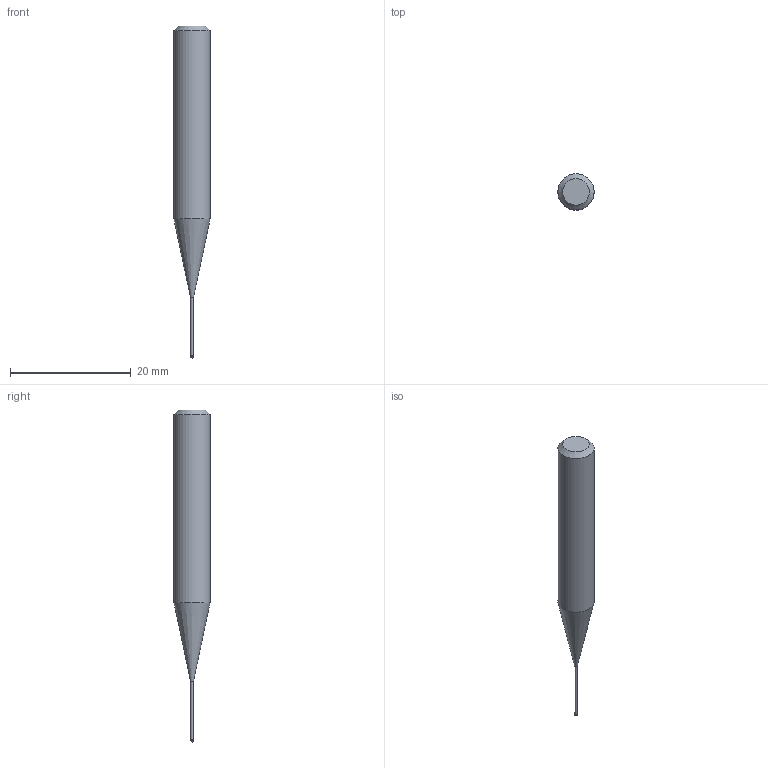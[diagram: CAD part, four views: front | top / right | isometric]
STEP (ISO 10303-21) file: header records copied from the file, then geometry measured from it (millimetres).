
FILE_DESCRIPTION((''),'2;1');
FILE_NAME('C:\Users\nsx150\AppData\Local\Temp\Mastercam 2021\3SYKECWX22\TEMP.step','2021-04-22T10:00:36',(''),(''),'STEP Write','Mastercam 2021 ... CNC Software, Inc.','');
FILE_SCHEMA(('AUTOMOTIVE_DESIGN'));
Length unit declared in the file: millimetre
Products named in the file (1): None
Bounding box: 6 x 6 x 55 mm (x, y, z)
Volume: 1033 mm3; surface area: 771.2 mm2
Topology: 2 solids, 2 shells, 9 faces, 14 edges, 8 vertices
Faces by surface type: plane 3, cylinder 3, cone 2, sphere 1
Full cylindrical faces by diameter (mm): 0.46 x1, 0.5 x1, 6 x1
Entity records: 211 total; most frequent: DIRECTION 36, CARTESIAN_POINT 25, AXIS2_PLACEMENT_3D 18, ORIENTED_EDGE 14, EDGE_LOOP 14, STYLED_ITEM 12, ADVANCED_FACE 9, FACE_BOUND 8
